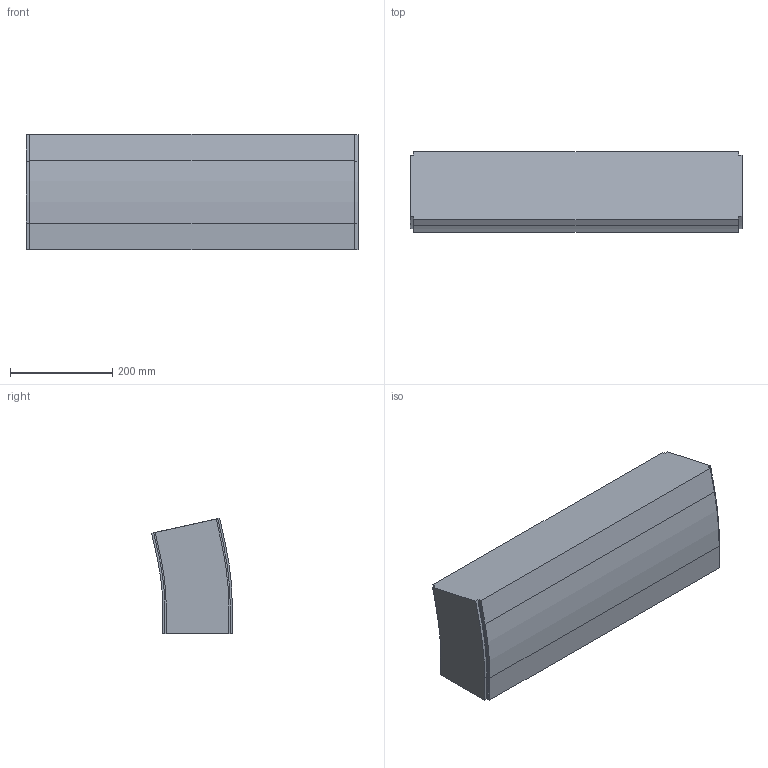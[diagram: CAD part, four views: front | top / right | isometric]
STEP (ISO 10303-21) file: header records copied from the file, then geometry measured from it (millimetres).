
FILE_DESCRIPTION (( 'STEP AP214' ), '1' );
FILE_NAME ('FS-MTC2-150-INOX verticaalbocht.650 12,5°.STEP', '2017-02-08T12:42:08', ( '' ), ( '' ), 'SwSTEP 2.0', 'SolidWorks 2016', '' );
FILE_SCHEMA (( 'AUTOMOTIVE_DESIGN' ));
Length unit declared in the file: millimetre
Products named in the file (1): FS-MTC2-150-INOX verticaalbocht.650 12,5°
Bounding box: 650.5 x 158.1 x 226.75 mm (x, y, z)
Volume: 18967172 mm3; surface area: 514161.3 mm2
Topology: 1 solids, 1 shells, 42 faces, 120 edges, 80 vertices
Faces by surface type: plane 32, cylinder 10
Entity records: 1398 total; most frequent: CARTESIAN_POINT 243, ORIENTED_EDGE 240, DIRECTION 226, EDGE_CURVE 120, LINE 100, VECTOR 100, VERTEX_POINT 80, AXIS2_PLACEMENT_3D 63
